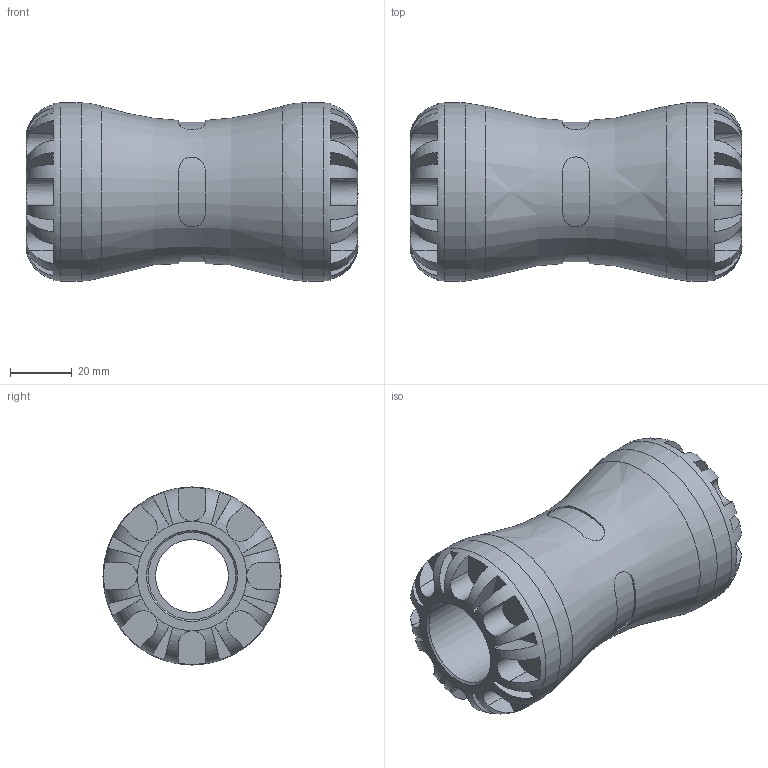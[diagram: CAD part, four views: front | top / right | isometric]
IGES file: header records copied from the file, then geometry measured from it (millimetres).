
Global section: file name: 1001Z0010.ipt; native system: Autodesk Inventor 2019; preprocessor: unknown; author: KIM; date: 20210902.120222; units: inch
Bounding box: 107.95 x 57.91 x 57.91 mm (x, y, z)
Volume: 152167.5 mm3; surface area: 35099.6 mm2
Topology: 1 solids, 1 shells, 164 faces, 427 edges, 270 vertices
Faces by surface type: plane 108, revolution 34, cylinder 22
Full cylindrical faces by diameter (mm): 57.912 x2
